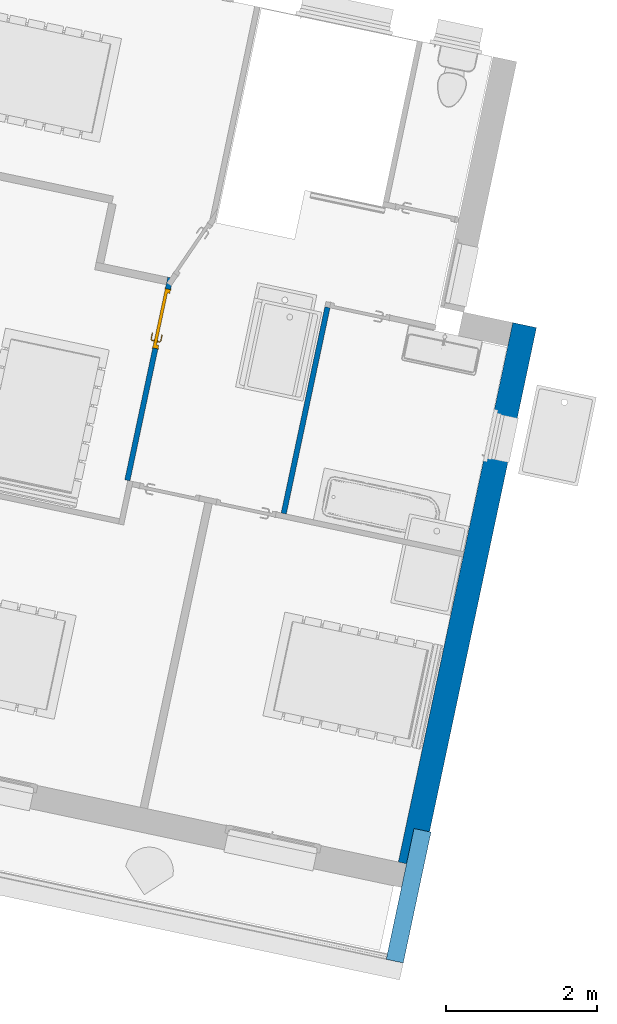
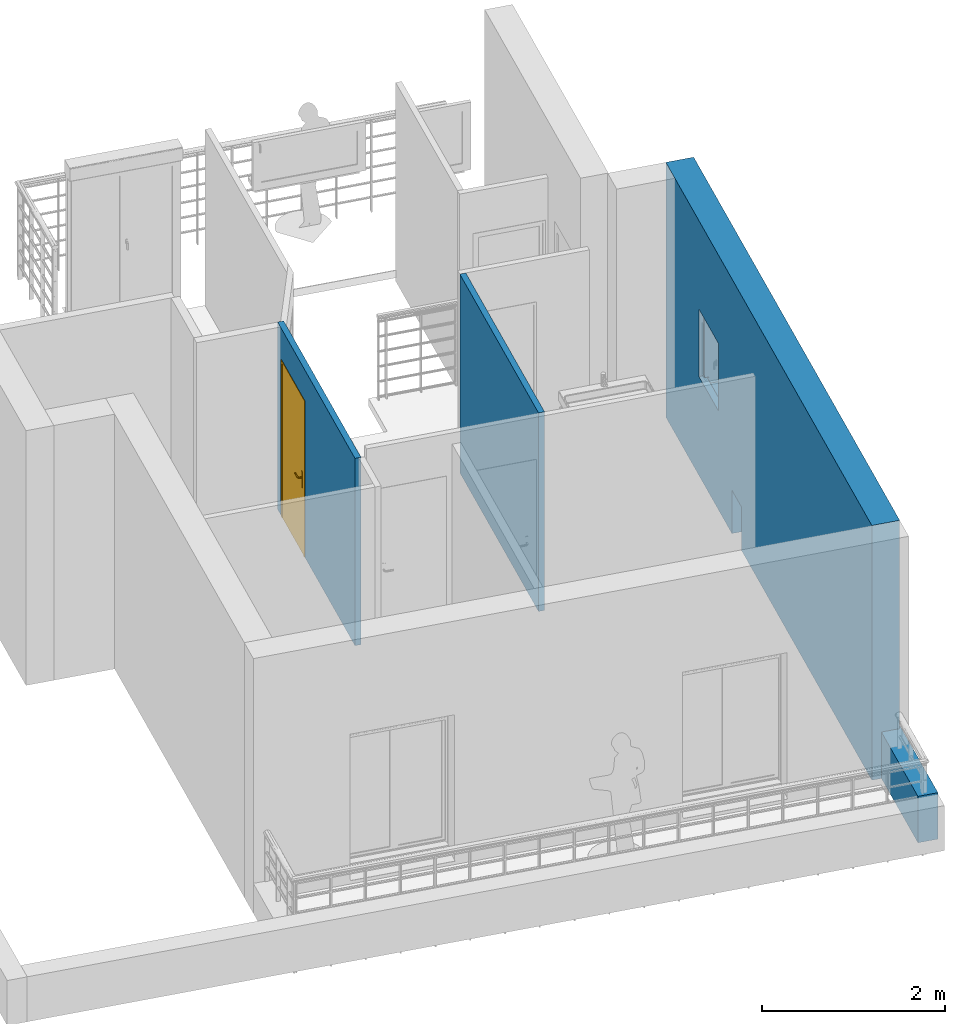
# One storey, part 6 of 18: 4 walls, 1 door, 2 openings.
"""IFC2X3 building model written with IfcOpenShell, lengths in metres."""

from ifc_helpers import new_model, entity, si_unit, converted_unit, derived_unit, direction, frame, frame_2d, origin, place, context, subcontext, project, spatial, polyline, rectangle, outline, extrude, clip, bounded_halfspace, faceted_brep, source, transform, mapped, material, material_list, layer, layer_set, layer_usage, type_object, type_shapes, element, fill, save


model = new_model("IFC2X3")

# Units and contexts
model_context = context("Model", 3, precision=1e-05, world=origin(), true_north=direction((6.12303176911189e-17, 1.0)))
body_context = subcontext(model_context, "Body", "Model", "MODEL_VIEW")
ifc_project = project(units=[si_unit("LENGTHUNIT", "METRE"), si_unit("AREAUNIT", "SQUARE_METRE"), si_unit("VOLUMEUNIT", "CUBIC_METRE"), converted_unit("PLANEANGLEUNIT", "DEGREE", entity("IfcRatioMeasure", 0.0174532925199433), si_unit("PLANEANGLEUNIT", "RADIAN"), dimensions=[0, 0, 0, 0, 0, 0, 0]), si_unit("MASSUNIT", "GRAM", prefix="KILO"), derived_unit("MASSDENSITYUNIT", [(si_unit("MASSUNIT", "GRAM", prefix="KILO"), 1), (si_unit("LENGTHUNIT", "METRE"), -3)]), si_unit("TIMEUNIT", "SECOND"), si_unit("FREQUENCYUNIT", "HERTZ"), si_unit("THERMODYNAMICTEMPERATUREUNIT", "DEGREE_CELSIUS"), derived_unit("THERMALTRANSMITTANCEUNIT", [(si_unit("MASSUNIT", "GRAM", prefix="KILO"), 1), (si_unit("THERMODYNAMICTEMPERATUREUNIT", "KELVIN"), -1), (si_unit("TIMEUNIT", "SECOND"), -3)]), derived_unit("VOLUMETRICFLOWRATEUNIT", [(si_unit("LENGTHUNIT", "METRE"), 3), (si_unit("TIMEUNIT", "SECOND"), -1)]), si_unit("ELECTRICCURRENTUNIT", "AMPERE"), si_unit("ELECTRICVOLTAGEUNIT", "VOLT"), si_unit("POWERUNIT", "WATT"), si_unit("FORCEUNIT", "NEWTON", prefix="KILO"), si_unit("ILLUMINANCEUNIT", "LUX"), si_unit("LUMINOUSFLUXUNIT", "LUMEN"), si_unit("LUMINOUSINTENSITYUNIT", "CANDELA"), derived_unit("USERDEFINED", [(si_unit("MASSUNIT", "GRAM", prefix="KILO"), -1), (si_unit("LENGTHUNIT", "METRE"), -2), (si_unit("TIMEUNIT", "SECOND"), 3), (si_unit("LUMINOUSFLUXUNIT", "LUMEN"), 1)]), derived_unit("LINEARVELOCITYUNIT", [(si_unit("LENGTHUNIT", "METRE"), 1), (si_unit("TIMEUNIT", "SECOND"), -1)]), si_unit("PRESSUREUNIT", "PASCAL"), derived_unit("USERDEFINED", [(si_unit("LENGTHUNIT", "METRE"), -2), (si_unit("MASSUNIT", "GRAM", prefix="KILO"), 1), (si_unit("TIMEUNIT", "SECOND"), -2)])], contexts=[model_context])

# Site, building, storey
site_placement = place(None, origin())
site = spatial("IfcSite", under=ifc_project, at=site_placement, Name="Default", CompositionType="ELEMENT")
building_placement = place(site_placement, origin())
building = spatial("IfcBuilding", under=site, at=building_placement, CompositionType="ELEMENT")
storey_placement = place(building_placement, frame((0.0, 0.0, 2.8)))
storey = spatial("IfcBuildingStorey", under=building, at=storey_placement, Name="ETAGE", CompositionType="ELEMENT", Elevation=2.8)

# Wall, opening
ifc_material_1 = material(Name="Enduit blanc cassé2")
ifc_layer_1 = layer(ifc_material_1, 0.02)
ifc_material_2 = material(Name="Parpaing")
ifc_layer_2 = layer(ifc_material_2, 0.2)
ifc_material_3 = material(Name="Isolant")
ifc_layer_3 = layer(ifc_material_3, 0.1)
ifc_layer_set_1 = layer_set([ifc_layer_1, ifc_layer_2, ifc_layer_3], Name="Mur de base:Ext. Parpaing 20 + Isolant 10 enduit blanc cassé")
ifc_layer_usage_1 = layer_usage(ifc_layer_set_1, "AXIS2", "POSITIVE", -0.16)
wall_type_1 = type_object("IfcWallType", Name="Mur de base:Ext. Parpaing 20 + Isolant 10 enduit blanc cassé", PredefinedType="STANDARD", material=ifc_layer_set_1)
wall_1_placement = place(storey_placement, frame((-11.7345230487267, 74.3445011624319, 0.0), z_axis=(0.0, 0.0, 1.0), x_axis=(0.207484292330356, 0.978238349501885, 0.0)))
wall_1 = element("IfcWallStandardCase", 1, at=wall_1_placement, inside=storey, type_object=wall_type_1, material=ifc_layer_usage_1, Name="Mur de base:Ext. Parpaing 20 + Isolant 10 enduit blanc cassé", ObjectType="Mur de base:Ext. Parpaing 20 + Isolant 10 enduit blanc cassé", context=body_context, shape_type="Clipping", body=[
    clip(extrude(rectangle(XDim=7.28, YDim=0.320000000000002, at=frame_2d((3.64, -4.16333634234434e-17), x_axis=(-1.0, 0.0))), origin(), (0.0, 0.0, 1.0), 3.40000000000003), bounded_halfspace(frame((4.60478728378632, -0.159999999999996, 0.58)), True, frame((4.60478728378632, -0.159999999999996, 0.58)), polyline([(0.0, 0.0), (0.340000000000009, 0.0), (0.340000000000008, 0.32), (0.0, 0.320000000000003), (0.0, 0.0)]))),
])
opening_1_placement = place(wall_1_placement, frame((5.25703090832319, 0.456950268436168, 1.24), z_axis=(0.0, 0.0, 1.0), x_axis=(0.207484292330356, -0.978238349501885, 0.0)))
element("IfcOpeningElement", 2, at=opening_1_placement, cuts=wall_1, Name="Mur de base:Ext. Parpaing 20 + Isolant 10 enduit blanc cassé", ObjectType="Opening", context=body_context, shape_type="Brep", body=[
    faceted_brep([(0.410860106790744, 0.120340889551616, 0.0800000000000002), (0.410860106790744, 0.120340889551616, 0.0), (0.978238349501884, 0.0, 0.0), (0.978238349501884, 0.0, 0.93), (0.430424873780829, 0.116191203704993, 0.93), (0.430424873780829, 0.116191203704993, 0.0800000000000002), (0.12449057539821, 0.79442730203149, 0.0800000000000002), (0.12449057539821, 0.79442730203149, 0.93), (0.457091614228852, 0.72388264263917, 0.93), (0.457091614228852, 0.72388264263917, 0.0800000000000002), (0.0, 0.207484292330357, 0.0800000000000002), (0.467465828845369, 0.772794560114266, 0.0800000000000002), (0.516377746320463, 0.762420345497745, 0.0800000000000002), (0.508078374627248, 0.723290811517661, 0.0800000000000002), (0.556990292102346, 0.712916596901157, 0.0800000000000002), (0.554915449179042, 0.703134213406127, 0.0800000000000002), (0.535350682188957, 0.70728389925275, 0.0800000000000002), (0.428350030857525, 0.106408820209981, 0.0800000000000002), (0.379438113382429, 0.116783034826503, 0.0800000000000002), (0.371138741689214, 0.0776535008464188, 0.0800000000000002), (0.322226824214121, 0.0880277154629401, 0.0800000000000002), (0.332601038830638, 0.136939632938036, 0.0800000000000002), (0.0, 0.207484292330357, 0.93), (0.332601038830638, 0.136939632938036, 0.93), (1.1027289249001, 0.586943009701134, 0.0), (1.10272892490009, 0.586943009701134, 0.93), (0.535350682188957, 0.70728389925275, 0.0), (0.371138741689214, 0.0776535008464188, 0.979999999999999), (0.322226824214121, 0.0880277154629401, 0.979999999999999), (0.379438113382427, 0.116783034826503, 0.94), (0.508078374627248, 0.723290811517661, 0.94), (0.516377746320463, 0.762420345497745, 0.979999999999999), (0.428350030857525, 0.106408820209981, 0.94), (0.554915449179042, 0.703134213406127, 0.93), (0.556990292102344, 0.712916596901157, 0.94), (0.467465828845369, 0.772794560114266, 0.979999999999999)], [[[0, 1, 2, 3, 4, 5]], [[6, 7, 8, 9]], [[10, 6, 9, 11, 12, 13, 14, 15, 16, 0, 5, 17, 18, 19, 20, 21]], [[10, 22, 7, 6]], [[7, 22, 23, 8]], [[3, 2, 24, 25]], [[2, 1, 26, 24]], [[1, 0, 16, 26]], [[20, 19, 27, 28]], [[19, 18, 29, 30, 13, 12, 31, 27]], [[18, 17, 32, 29]], [[17, 5, 4, 33, 15, 14, 34, 32]], [[21, 20, 28, 35, 11, 9, 8, 23]], [[28, 27, 31, 35]], [[30, 29, 32, 34]], [[31, 12, 11, 35]], [[13, 30, 34, 14]], [[3, 25, 33, 4]], [[25, 24, 26, 16, 15, 33]], [[22, 10, 21, 23]]]),
])

# Walls
ifc_material_4 = material(Name="Blanc - Element de salle de bains")
ifc_layer_4 = layer(ifc_material_4, 0.07)
ifc_layer_set_2 = layer_set([ifc_layer_4], Name="Mur de base:Int.  Platre 70 mm en blanc")
ifc_layer_usage_2 = layer_usage(ifc_layer_set_2, "AXIS2", "NEGATIVE", 0.035)
wall_type_2 = type_object("IfcWallType", Name="Mur de base:Int.  Platre 70 mm en blanc", PredefinedType="STANDARD", material=ifc_layer_set_2)
wall_2_placement = place(storey_placement, frame((-13.4042945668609, 78.9789024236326, 0.0), z_axis=(0.0, 0.0, 1.0), x_axis=(0.207484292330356, 0.978238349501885, 0.0)))
element("IfcWallStandardCase", 3, at=wall_2_placement, inside=storey, type_object=wall_type_2, material=ifc_layer_usage_2, Name="Mur de base:Int.  Platre 70 mm en blanc", ObjectType="Mur de base:Int.  Platre 70 mm en blanc", context=body_context, shape_type="SweptSolid", body=[
    extrude(rectangle(XDim=2.78290233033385, YDim=0.0700000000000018, at=frame_2d((1.39145116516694, 1.8249290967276e-15), x_axis=(-1.0, 0.0))), origin(), (0.0, 0.0, 1.0), 2.65),
])
ifc_layer_5 = layer(ifc_material_1, 0.015)
ifc_layer_6 = layer(ifc_material_2, 0.2)
ifc_layer_7 = layer(ifc_material_1, 0.015)
ifc_layer_set_3 = layer_set([ifc_layer_5, ifc_layer_6, ifc_layer_7], Name="Mur de base:Ext. Parpaing 20 + 2 x 1.5")
ifc_layer_usage_3 = layer_usage(ifc_layer_set_3, "AXIS2", "NEGATIVE", 0.115)
wall_type_3 = type_object("IfcWallType", Name="Mur de base:Ext. Parpaing 20 + 2 x 1.5", PredefinedType="STANDARD", material=ifc_layer_set_3)
wall_3_placement = place(storey_placement, frame((-11.9385922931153, 73.069087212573, 0.0), z_axis=(0.0, 0.0, 1.0), x_axis=(0.207484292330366, 0.978238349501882, 0.0)))
element("IfcWallStandardCase", 4, at=wall_3_placement, inside=storey, type_object=wall_type_3, material=ifc_layer_usage_3, Name="Mur de base:Ext. Parpaing 20 + 2 x 1.5", ObjectType="Mur de base:Ext. Parpaing 20 + 2 x 1.5", context=body_context, shape_type="SweptSolid", body=[
    extrude(rectangle(XDim=1.76591867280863, YDim=0.230000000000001, at=frame_2d((0.882959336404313, 5.27355936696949e-16), x_axis=(-1.0, 0.0))), origin(), (0.0, 0.0, 1.0), 0.62),
])

# Wall, opening, door
ifc_material_5 = material(Name="Mur par défaut")
ifc_layer_8 = layer(ifc_material_5, 0.07)
ifc_layer_set_4 = layer_set([ifc_layer_8], Name="Mur de base:Int.  Platre 70 mm")
ifc_layer_usage_4 = layer_usage(ifc_layer_set_4, "AXIS2", "NEGATIVE", 0.035)
wall_type_4 = type_object("IfcWallType", Name="Mur de base:Int.  Platre 70 mm", PredefinedType="STANDARD", material=ifc_layer_set_4)
wall_4_placement = place(storey_placement, frame((-15.4683774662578, 79.4166942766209, 0.0), z_axis=(0.0, 0.0, 1.0), x_axis=(0.207484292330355, 0.978238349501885, 0.0)))
wall_4 = element("IfcWallStandardCase", 5, at=wall_4_placement, inside=storey, type_object=wall_type_4, material=ifc_layer_usage_4, Name="Mur de base:Int.  Platre 70 mm", ObjectType="Mur de base:Int.  Platre 70 mm", context=body_context, shape_type="SweptSolid", body=[
    extrude(outline(polyline([(0.0, -0.0349999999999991), (2.73364059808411, -0.0349999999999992), (2.73350265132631, 0.0349999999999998), (2.63350245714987, 0.0350000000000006), (0.0, 0.0350000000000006), (0.0, -0.00499998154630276), (0.0, -0.0349999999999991)])), origin(), (0.0, 0.0, 1.0), 2.5),
])
opening_2_placement = place(wall_4_placement, frame((1.78003842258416, -0.0350000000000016, 0.0)))
opening_2 = element("IfcOpeningElement", 6, at=opening_2_placement, cuts=wall_4, Name="Int. Simple:PP (0.73m x 2.04m):1", ObjectType="Opening", context=body_context, shape_type="SweptSolid", body=[
    extrude(rectangle(XDim=2.075, YDim=0.799999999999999, at=frame_2d((1.0375, 0.4), x_axis=(1.0, 0.0))), frame((0.0, 0.0, 0.0), z_axis=(0.0, 1.0, 0.0), x_axis=(0.0, 0.0, 1.0)), (0.0, 0.0, 1.0), 0.07),
])
ifc_material_6 = material(Name="Finition Peinture - Blanc satiné")
ifc_material_7 = material(Name="Bois - Mélaminé hêtre")
ifc_material_list_1 = material_list([ifc_material_6, ifc_material_7])
ifc_material_list_2 = material_list([ifc_material_6, ifc_material_7])
door_style = type_object("IfcDoorStyle", Name="PP (0.73m x 2.04m)", ConstructionType="NOTDEFINED", OperationType="SINGLE_SWING_RIGHT", ParameterTakesPrecedence=False, Sizeable=False, material=ifc_material_list_2)
shared_shape = source(origin(), body_context, "Body", "Brep", [
    faceted_brep([(0.795000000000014, -0.00500000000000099, 0.870000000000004), (0.795000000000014, -0.00500000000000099, 1.08), (0.785352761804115, -0.00500000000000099, 1.08399601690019), (0.775000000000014, -0.00500000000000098, 1.08535898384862), (0.764647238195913, -0.00500000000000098, 1.08399601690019), (0.755000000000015, -0.00500000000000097, 1.08), (0.755000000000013, -0.00500000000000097, 0.870000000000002), (0.764647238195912, -0.00500000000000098, 0.866003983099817), (0.775000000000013, -0.00500000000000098, 0.86464101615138), (0.785352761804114, -0.00500000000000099, 0.866003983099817), (0.795000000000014, 0.0, 1.08), (0.795000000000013, 0.0, 0.870000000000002), (0.785352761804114, 0.0, 0.866003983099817), (0.775000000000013, 0.0, 0.86464101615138), (0.764647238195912, 0.0, 0.866003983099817), (0.755000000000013, 0.0, 0.870000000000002), (0.755000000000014, 0.0, 1.08), (0.764647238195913, 0.0, 1.08399601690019), (0.775000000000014, 0.0, 1.08535898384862), (0.785352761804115, 0.0, 1.08399601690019)], [[[0, 1, 2, 3, 4, 5, 6, 7, 8, 9]], [[10, 11, 12, 13, 14, 15, 16, 17, 18, 19]], [[9, 12, 11, 0]], [[8, 13, 12, 9]], [[7, 14, 13, 8]], [[7, 6, 15, 14]], [[15, 6, 5, 16]], [[4, 17, 16, 5]], [[3, 18, 17, 4]], [[2, 19, 18, 3]], [[2, 1, 10, 19]], [[11, 10, 1, 0]]]),
    faceted_brep([(0.795000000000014, 0.039999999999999, 0.870000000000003), (0.795000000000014, 0.039999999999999, 1.08), (0.785352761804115, 0.039999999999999, 1.08399601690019), (0.775000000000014, 0.039999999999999, 1.08535898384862), (0.764647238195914, 0.039999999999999, 1.08399601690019), (0.755000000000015, 0.039999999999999, 1.08), (0.755000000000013, 0.039999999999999, 0.870000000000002), (0.764647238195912, 0.039999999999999, 0.866003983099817), (0.775000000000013, 0.039999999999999, 0.86464101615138), (0.785352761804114, 0.039999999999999, 0.866003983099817), (0.775000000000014, 0.044999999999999, 1.08535898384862), (0.785352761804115, 0.044999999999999, 1.08399601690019), (0.795000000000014, 0.044999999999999, 1.08), (0.795000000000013, 0.044999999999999, 0.870000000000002), (0.785352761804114, 0.044999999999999, 0.866003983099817), (0.775000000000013, 0.044999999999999, 0.86464101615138), (0.764647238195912, 0.044999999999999, 0.866003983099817), (0.755000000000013, 0.044999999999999, 0.870000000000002), (0.755000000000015, 0.044999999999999, 1.08), (0.764647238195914, 0.044999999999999, 1.08399601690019)], [[[0, 1, 2, 3, 4, 5, 6, 7, 8, 9]], [[10, 11, 12, 13, 14, 15, 16, 17, 18, 19]], [[4, 19, 18, 5]], [[3, 10, 19, 4]], [[2, 11, 10, 3]], [[2, 1, 12, 11]], [[13, 12, 1, 0]], [[9, 14, 13, 0]], [[8, 15, 14, 9]], [[7, 16, 15, 8]], [[7, 6, 17, 16]], [[17, 6, 5, 18]]]),
    faceted_brep([(0.772974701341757, -0.00500000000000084, 1.00778044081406), (0.777025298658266, -0.00500000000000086, 1.00778044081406), (0.781000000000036, -0.00500000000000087, 1.00699999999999), (0.781000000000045, -0.00500000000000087, 0.992999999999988), (0.777025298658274, -0.00500000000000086, 0.99221955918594), (0.772974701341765, -0.00500000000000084, 0.992219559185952), (0.768999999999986, -0.00500000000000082, 0.993000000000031), (0.768999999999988, -0.00500000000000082, 1.007), (0.777025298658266, -0.0310045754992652, 1.00778044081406), (0.781000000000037, -0.0326509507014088, 1.007), (0.772974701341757, -0.0293267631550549, 1.00778044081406), (0.759298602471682, -0.0430028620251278, 1.00778044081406), (0.760976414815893, -0.047053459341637, 1.00778044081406), (0.768999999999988, -0.0276803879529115, 1.007), (0.768999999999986, -0.0276803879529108, 0.993000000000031), (0.772974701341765, -0.0293267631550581, 0.992219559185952), (0.777025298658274, -0.0310045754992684, 0.99221955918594), (0.760976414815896, -0.0470534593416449, 0.99221955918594), (0.759298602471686, -0.0430028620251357, 0.992219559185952), (0.781000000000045, -0.0326509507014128, 0.992999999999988), (0.762622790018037, -0.051028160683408, 1.007), (0.757652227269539, -0.0390281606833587, 1.007), (0.757652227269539, -0.0390281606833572, 0.993000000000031), (0.76262279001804, -0.0510281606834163, 0.992999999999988), (0.674981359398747, -0.0510281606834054, 1.007), (0.674981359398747, -0.0470534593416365, 1.00778044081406), (0.674981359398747, -0.0430028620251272, 1.00778044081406), (0.674981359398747, -0.0390281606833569, 1.00699999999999), (0.674981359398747, -0.0390281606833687, 0.993000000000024), (0.674981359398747, -0.0430028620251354, 0.992219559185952), (0.674981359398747, -0.0470534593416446, 0.99221955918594), (0.674981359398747, -0.0510281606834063, 0.992999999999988), (0.71713998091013, -0.0450281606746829, 1.0078786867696), (0.722692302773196, -0.0510281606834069, 1.007), (0.716316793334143, -0.0390281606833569, 1.007), (0.716316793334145, -0.0390281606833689, 0.993000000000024), (0.717139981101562, -0.0450281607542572, 0.992121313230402), (0.722692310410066, -0.0510281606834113, 0.992999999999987)], [[[0, 1, 2, 3, 4, 5, 6, 7]], [[2, 1, 8, 9]], [[1, 0, 10, 11, 12, 8]], [[0, 7, 13, 10]], [[14, 13, 7, 6]], [[5, 15, 14, 6]], [[5, 4, 16, 17, 18, 15]], [[3, 19, 16, 4]], [[9, 19, 3, 2]], [[9, 8, 12, 20]], [[10, 13, 21, 11]], [[22, 21, 13, 14]], [[14, 15, 18, 22]], [[16, 19, 23, 17]], [[20, 23, 19, 9]], [[24, 25, 26, 27, 28, 29, 30, 31]], [[32, 25, 33]], [[33, 25, 24]], [[33, 20, 12]], [[11, 34, 32]], [[34, 11, 21]], [[27, 26, 34]], [[32, 26, 25]], [[32, 34, 26]], [[32, 33, 12]], [[11, 32, 12]], [[21, 22, 35, 28, 27, 34]], [[36, 29, 35]], [[30, 36, 37]], [[18, 35, 22]], [[29, 28, 35]], [[30, 37, 31]], [[37, 17, 23]], [[36, 17, 37]], [[36, 18, 17]], [[36, 35, 18]], [[29, 36, 30]], [[23, 20, 33, 24, 31, 37]]]),
    faceted_brep([(0.772974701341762, 0.0449999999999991, 0.992219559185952), (0.777025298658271, 0.0449999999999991, 0.99221955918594), (0.781000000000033, 0.0449999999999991, 0.992999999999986), (0.781000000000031, 0.0449999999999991, 1.007), (0.777025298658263, 0.0449999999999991, 1.00778044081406), (0.772974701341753, 0.0449999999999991, 1.00778044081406), (0.768999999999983, 0.0449999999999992, 1.007), (0.768999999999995, 0.0449999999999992, 0.993000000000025), (0.768999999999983, 0.0674852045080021, 1.007), (0.768999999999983, 0.0674852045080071, 0.993000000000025), (0.772974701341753, 0.0691315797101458, 1.00778044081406), (0.777025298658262, 0.070809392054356, 1.00778044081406), (0.760838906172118, 0.0869957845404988, 1.00778044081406), (0.759161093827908, 0.0829451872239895, 1.00778044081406), (0.781000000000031, 0.0724557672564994, 1.007), (0.781000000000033, 0.0724557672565, 0.992999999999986), (0.777025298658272, 0.0708093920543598, 0.99221955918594), (0.772974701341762, 0.0691315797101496, 0.992219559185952), (0.759161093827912, 0.0829451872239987, 0.992219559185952), (0.760838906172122, 0.0869957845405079, 0.99221955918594), (0.757514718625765, 0.0789704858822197, 1.007), (0.757514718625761, 0.0789704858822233, 0.993000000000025), (0.762485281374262, 0.0909704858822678, 1.007), (0.762485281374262, 0.0909704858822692, 0.992999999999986), (0.674954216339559, 0.0829451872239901, 1.00778044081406), (0.674954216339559, 0.0869957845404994, 1.00778044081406), (0.674954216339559, 0.0909704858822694, 1.007), (0.674954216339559, 0.0909704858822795, 0.992999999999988), (0.674954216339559, 0.0869957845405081, 0.99221955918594), (0.674954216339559, 0.0829451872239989, 0.992219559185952), (0.674954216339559, 0.07897048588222, 0.993000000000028), (0.674954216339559, 0.0789704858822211, 1.007), (0.716234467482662, 0.0789704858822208, 1.007), (0.716234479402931, 0.0789704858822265, 0.993000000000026), (0.717057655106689, 0.0849704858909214, 1.0078786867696), (0.722554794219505, 0.0909704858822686, 1.007), (0.722554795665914, 0.0909704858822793, 0.992999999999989), (0.717057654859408, 0.0849704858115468, 0.992121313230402)], [[[0, 1, 2, 3, 4, 5, 6, 7]], [[8, 9, 7, 6]], [[5, 10, 8, 6]], [[5, 4, 11, 12, 13, 10]], [[3, 14, 11, 4]], [[14, 3, 2, 15]], [[2, 1, 16, 15]], [[1, 0, 17, 18, 19, 16]], [[0, 7, 9, 17]], [[20, 21, 9, 8]], [[8, 10, 13, 20]], [[14, 22, 12, 11]], [[23, 22, 14, 15]], [[15, 16, 19, 23]], [[17, 9, 21, 18]], [[24, 25, 26, 27, 28, 29, 30, 31]], [[21, 20, 32, 31, 30, 33]], [[34, 24, 32]], [[25, 34, 35]], [[13, 32, 20]], [[24, 31, 32]], [[25, 35, 26]], [[35, 12, 22]], [[34, 12, 35]], [[34, 13, 12]], [[34, 32, 13]], [[24, 34, 25]], [[22, 23, 36, 27, 26, 35]], [[37, 28, 36]], [[36, 28, 27]], [[36, 23, 19]], [[18, 33, 37]], [[33, 18, 21]], [[30, 29, 33]], [[37, 29, 28]], [[37, 33, 29]], [[37, 36, 19]], [[18, 37, 19]]]),
    faceted_brep([(0.835000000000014, 0.0400000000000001, 2.04), (0.835000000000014, 0.0400000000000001, 0.0), (0.105000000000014, 0.0400000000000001, 0.0), (0.105000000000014, 0.0400000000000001, 2.04), (0.835000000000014, 0.0, 2.04), (0.105000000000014, 0.0, 2.04), (0.105000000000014, 0.0, 0.0), (0.835000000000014, 0.0, 0.0)], [[[0, 1, 2, 3]], [[4, 5, 6, 7]], [[3, 5, 4, 0]], [[2, 6, 5, 3]], [[1, 7, 6, 2]], [[0, 4, 7, 1]]]),
    faceted_brep([(0.870000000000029, 0.0, 0.0), (0.835000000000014, 0.0, 0.0), (0.835000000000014, 0.04, 0.0), (0.820000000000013, 0.04, 0.0), (0.820000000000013, 0.0699999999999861, 0.0), (0.870000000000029, 0.0699999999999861, 0.0), (0.870000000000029, 0.0699999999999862, 2.07500000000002), (0.870000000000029, 0.0, 2.07500000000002), (0.820000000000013, 0.0699999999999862, 2.025), (0.120000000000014, 0.0699999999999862, 2.025), (0.120000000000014, 0.0699999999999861, 0.0), (0.0699999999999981, 0.0699999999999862, 0.0), (0.0699999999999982, 0.0699999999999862, 2.07500000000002), (0.820000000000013, 0.04, 2.025), (0.835000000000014, 0.04, 2.04), (0.105000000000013, 0.04, 2.04), (0.105000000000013, 0.04, 0.0), (0.120000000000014, 0.04, 0.0), (0.120000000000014, 0.04, 2.025), (0.835000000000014, 0.0, 2.04), (0.0699999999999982, 0.0, 2.07500000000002), (0.0699999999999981, 0.0, 0.0), (0.105000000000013, 0.0, 0.0), (0.105000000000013, 0.0, 2.04)], [[[0, 1, 2, 3, 4, 5]], [[5, 6, 7, 0]], [[4, 8, 9, 10, 11, 12, 6, 5]], [[3, 13, 8, 4]], [[2, 14, 15, 16, 17, 18, 13, 3]], [[1, 19, 14, 2]], [[0, 7, 20, 21, 22, 23, 19, 1]], [[12, 11, 21, 20]], [[21, 11, 10, 17, 16, 22]], [[18, 17, 10, 9]], [[23, 22, 16, 15]], [[6, 12, 20, 7]], [[13, 18, 9, 8]], [[19, 23, 15, 14]]]),
    faceted_brep([(0.855000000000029, 0.0699999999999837, 0.0), (0.855000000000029, 0.0749999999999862, 0.0), (0.885000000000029, 0.0749999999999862, 0.0), (0.885000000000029, 0.0699999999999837, 0.0), (0.885000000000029, 0.0699999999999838, 2.09000000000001), (0.0550000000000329, 0.0699999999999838, 2.09000000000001), (0.055000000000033, 0.0699999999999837, 0.0), (0.0850000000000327, 0.0699999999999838, 0.0), (0.0850000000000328, 0.0699999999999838, 2.06000000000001), (0.855000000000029, 0.0699999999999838, 2.06000000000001), (0.885000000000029, 0.0749999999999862, 2.09000000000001), (0.855000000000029, 0.0749999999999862, 2.06000000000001), (0.0850000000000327, 0.0749999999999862, 2.06000000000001), (0.0850000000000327, 0.0749999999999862, 0.0), (0.055000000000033, 0.0749999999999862, 0.0), (0.0550000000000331, 0.0749999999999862, 2.09000000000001)], [[[0, 1, 2, 3]], [[3, 4, 5, 6, 7, 8, 9, 0]], [[2, 10, 4, 3]], [[1, 11, 12, 13, 14, 15, 10, 2]], [[0, 9, 11, 1]], [[7, 6, 14, 13]], [[8, 7, 13, 12]], [[15, 14, 6, 5]], [[10, 15, 5, 4]], [[9, 8, 12, 11]]]),
    faceted_brep([(0.885000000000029, -0.005, 0.0), (0.885000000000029, -0.005, 2.09000000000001), (0.0550000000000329, -0.005, 2.09000000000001), (0.055000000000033, -0.005, 0.0), (0.0850000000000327, -0.005, 0.0), (0.0850000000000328, -0.005, 2.06000000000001), (0.855000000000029, -0.005, 2.06000000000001), (0.855000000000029, -0.005, 0.0), (0.885000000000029, 0.0, 0.0), (0.885000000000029, 0.0, 2.09000000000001), (0.855000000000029, 0.0, 0.0), (0.855000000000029, 0.0, 2.06000000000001), (0.0850000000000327, 0.0, 2.06000000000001), (0.0850000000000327, 0.0, 0.0), (0.055000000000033, 0.0, 0.0), (0.0550000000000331, 0.0, 2.09000000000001)], [[[0, 1, 2, 3, 4, 5, 6, 7]], [[8, 9, 1, 0]], [[10, 11, 12, 13, 14, 15, 9, 8]], [[7, 6, 11, 10]], [[5, 4, 13, 12]], [[15, 14, 3, 2]], [[9, 15, 2, 1]], [[6, 5, 12, 11]], [[4, 3, 14, 13]], [[7, 10, 8, 0]]]),
])
type_shapes(door_style, [shared_shape])
door_placement = place(opening_2_placement, frame((0.870000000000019, 0.0700000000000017, 0.0), z_axis=(0.0, 0.0, 1.0), x_axis=(-1.0, 0.0, 0.0)))
door = element("IfcDoor", 7, at=door_placement, inside=storey, type_object=door_style, material=ifc_material_list_1, Name="Int. Simple:PP (0.73m x 2.04m)", ObjectType="Int. Simple:PP (0.73m x 2.04m)", OverallHeight=2.075, OverallWidth=0.799999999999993, context=body_context, shape_type="MappedRepresentation", body=[
    mapped(shared_shape, transform((0.0, 0.0, 0.0), scale=1.0)),
])
fill(opening_2, door)

save(model, "model.ifc")
